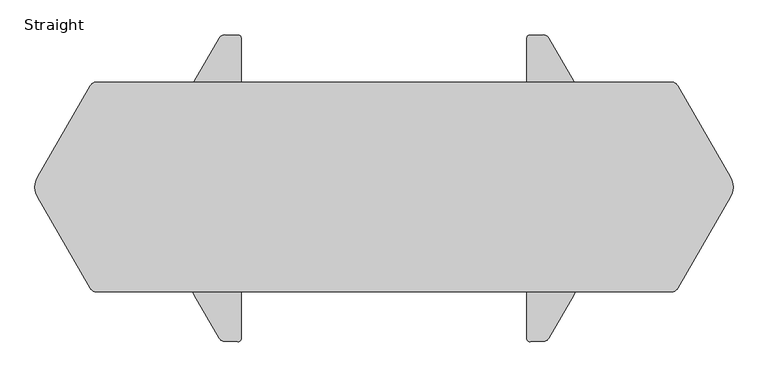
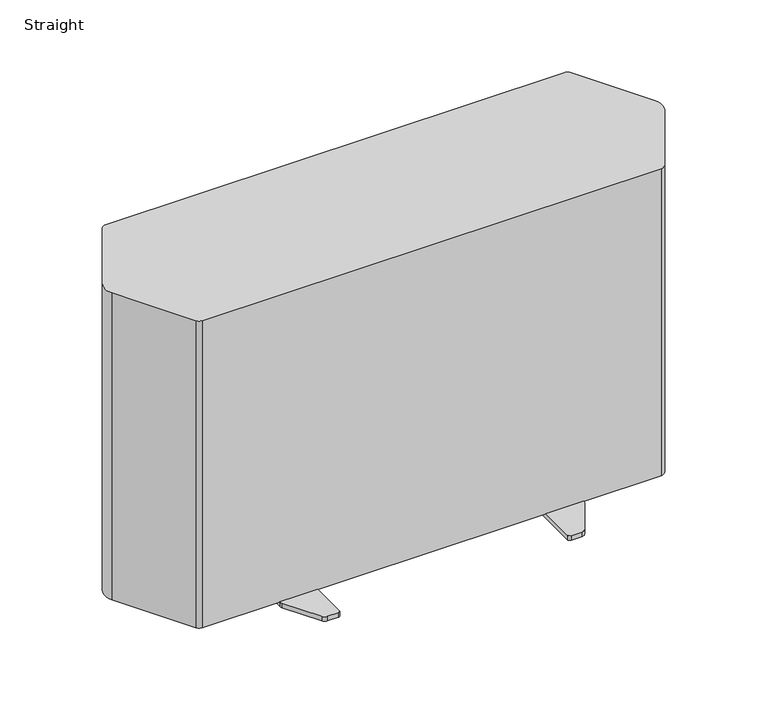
"""IFC4 building model written with IfcOpenShell, lengths in millimetres: furniture geometry, SmithSystem_AM_Seating_Outdoor_Flowform_MidHeightBenchDivider : Straight."""

from ifc_helpers import new_model, si_unit, point, frame, frame_2d, origin, origin_with_axes, place, context, project, spatial, polyline, circle_curve, trimmed, segment, composite_curve, outline, extrude, source, transform, mapped, element, save


def straight_cc77db5b(model_context):
    return source(origin(), model_context, "Body", "SweptSolid", [
        extrude(outline(composite_curve([segment(trimmed(circle_curve(frame_2d((-450.5197772, 139.7559948)), 12.7), [point((-463.2197772, 139.7559948))], [point((-437.8197772, 139.7559948))], False, "CARTESIAN"), True, "CONTINUOUS"), segment(trimmed(circle_curve(frame_2d((-450.5197772, 139.7559948)), 12.7), [point((-437.8197772, 139.7559948))], [point((-463.2197772, 139.7559948))], False, "CARTESIAN"), True, "CONTINUOUS")], self_intersect=False)), origin_with_axes(), (0.0, 0.0, 1.0), 9.5250216),
        extrude(outline(composite_curve([segment(trimmed(circle_curve(frame_2d((-450.1246969, -140.1371727)), 12.7), [point((-462.8246969, -140.1371727))], [point((-437.4246969, -140.1371727))], False, "CARTESIAN"), True, "CONTINUOUS"), segment(trimmed(circle_curve(frame_2d((-450.1246969, -140.1371727)), 12.7), [point((-437.4246969, -140.1371727))], [point((-462.8246969, -140.1371727))], False, "CARTESIAN"), True, "CONTINUOUS")], self_intersect=False)), origin_with_axes(), (0.0, 0.0, 1.0), 9.5250216),
        extrude(outline(composite_curve([segment(trimmed(circle_curve(frame_2d((450.5197772, 139.7559948)), 12.7), [point((463.2197772, 139.7559948))], [point((437.8197772, 139.7559948))], False, "CARTESIAN"), True, "CONTINUOUS"), segment(trimmed(circle_curve(frame_2d((450.5197772, 139.7559948)), 12.7), [point((437.8197772, 139.7559948))], [point((463.2197772, 139.7559948))], False, "CARTESIAN"), True, "CONTINUOUS")], self_intersect=False)), origin_with_axes(), (0.0, 0.0, 1.0), 9.5250216),
        extrude(outline(composite_curve([segment(trimmed(circle_curve(frame_2d((450.1246969, -140.1371727)), 12.7), [point((462.8246969, -140.1371727))], [point((437.4246969, -140.1371727))], False, "CARTESIAN"), True, "CONTINUOUS"), segment(trimmed(circle_curve(frame_2d((450.1246969, -140.1371727)), 12.7), [point((437.4246969, -140.1371727))], [point((462.8246969, -140.1371727))], False, "CARTESIAN"), True, "CONTINUOUS")], self_intersect=False)), origin_with_axes(), (0.0, 0.0, 1.0), 9.5250216),
        extrude(outline(composite_curve([segment(trimmed(circle_curve(frame_2d((-0.9672087, -0.1366942)), 12.7), [point((11.7327913, -0.1366942))], [point((-13.6672087, -0.1366942))], False, "CARTESIAN"), True, "CONTINUOUS"), segment(trimmed(circle_curve(frame_2d((-0.9672087, -0.1366942)), 12.7), [point((-13.6672087, -0.1366942))], [point((11.7327913, -0.1366942))], False, "CARTESIAN"), True, "CONTINUOUS")], self_intersect=False)), origin_with_axes(), (0.0, 0.0, 1.0), 9.5250216),
        extrude(outline(composite_curve([segment(trimmed(circle_curve(frame_2d((-234.4777737, 241.1011039)), 5.08), [point((-234.4671939, 246.1810929))], [point((-229.3977739, 241.0998169))], False, "CARTESIAN"), True, "CONTINUOUS"), segment(polyline([(-229.3977739, 241.0998169), (-229.5199359, -241.0998169)]), True, "CONTINUOUS"), segment(trimmed(circle_curve(frame_2d((-234.5999357, -241.09853)), 5.08), [point((-229.5199359, -241.0998169))], [point((-234.6401923, -246.1783705))], False, "CARTESIAN"), True, "CONTINUOUS"), segment(polyline([(-234.6401923, -246.1783705), (-255.8652103, -246.010167)]), True, "CONTINUOUS"), segment(trimmed(circle_curve(frame_2d((-255.7846971, -235.850486)), 10.16), [point((-255.8652103, -246.010167))], [point((-264.5791781, -240.9379907))], False, "CARTESIAN"), True, "CONTINUOUS"), segment(polyline([(-264.5791781, -240.9379907), (-304.7512617, -171.4947863)]), True, "CONTINUOUS"), segment(trimmed(circle_curve(frame_2d((-295.9567807, -166.4072816)), 10.16), [point((-304.7512617, -171.4947863))], [point((-306.1167803, -166.4046108))], False, "CARTESIAN"), True, "CONTINUOUS"), segment(polyline([(-306.1167803, -166.4046108), (-306.0292523, 166.5649192)]), True, "CONTINUOUS"), segment(trimmed(circle_curve(frame_2d((-295.8692526, 166.5622484)), 10.16), [point((-306.0292523, 166.5649192))], [point((-304.6745177, 171.6310655))], False, "CARTESIAN"), True, "CONTINUOUS"), segment(polyline([(-304.6745177, 171.6310655), (-264.6643776, 241.1344398)]), True, "CONTINUOUS"), segment(trimmed(circle_curve(frame_2d((-255.8591125, 236.0656227)), 10.16), [point((-264.6643776, 241.1344398))], [point((-255.8379528, 246.2256007))], False, "CARTESIAN"), True, "CONTINUOUS"), segment(polyline([(-255.8379528, 246.2256007), (-234.4671939, 246.1810929)]), True, "CONTINUOUS")], self_intersect=False)), origin_with_axes(), (0.0, 0.0, 1.0), 9.5250216),
        extrude(outline(composite_curve([segment(polyline([(234.4671939, 246.1810929), (255.8379528, 246.2256007)]), True, "CONTINUOUS"), segment(trimmed(circle_curve(frame_2d((255.8591125, 236.0656227)), 10.16), [point((255.8379528, 246.2256007))], [point((264.6643776, 241.1344398))], False, "CARTESIAN"), True, "CONTINUOUS"), segment(polyline([(264.6643776, 241.1344398), (304.6745177, 171.6310655)]), True, "CONTINUOUS"), segment(trimmed(circle_curve(frame_2d((295.8692526, 166.5622484)), 10.16), [point((304.6745177, 171.6310655))], [point((306.0292523, 166.5649192))], False, "CARTESIAN"), True, "CONTINUOUS"), segment(polyline([(306.0292523, 166.5649192), (306.1167803, -166.4046108)]), True, "CONTINUOUS"), segment(trimmed(circle_curve(frame_2d((295.9567807, -166.4072816)), 10.16), [point((306.1167803, -166.4046108))], [point((304.7512617, -171.4947863))], False, "CARTESIAN"), True, "CONTINUOUS"), segment(polyline([(304.7512617, -171.4947863), (264.5791781, -240.9379907)]), True, "CONTINUOUS"), segment(trimmed(circle_curve(frame_2d((255.7846971, -235.850486)), 10.16), [point((264.5791781, -240.9379907))], [point((255.8652103, -246.010167))], False, "CARTESIAN"), True, "CONTINUOUS"), segment(polyline([(255.8652103, -246.010167), (234.6401923, -246.1783705)]), True, "CONTINUOUS"), segment(trimmed(circle_curve(frame_2d((234.5999357, -241.09853)), 5.08), [point((234.6401923, -246.1783705))], [point((229.5199359, -241.0998169))], False, "CARTESIAN"), True, "CONTINUOUS"), segment(polyline([(229.5199359, -241.0998169), (229.3977739, 241.0998169)]), True, "CONTINUOUS"), segment(trimmed(circle_curve(frame_2d((234.4777737, 241.1011039)), 5.08), [point((229.3977739, 241.0998169))], [point((234.4671939, 246.1810929))], False, "CARTESIAN"), True, "CONTINUOUS")], self_intersect=False)), origin_with_axes(), (0.0, 0.0, 1.0), 9.5250216),
        extrude(outline(composite_curve([segment(trimmed(circle_curve(frame_2d((461.6820936, 159.0775673)), 11.43), [point((461.6820936, 170.5075673))], [point((471.580764, 164.7925673))], False, "CARTESIAN"), True, "CONTINUOUS"), segment(polyline([(471.580764, 164.7925673), (556.1798823, 18.2625959)]), True, "CONTINUOUS"), segment(trimmed(circle_curve(frame_2d((527.5837235, 1.7525959)), 33.02), [point((556.1798823, 18.2625959))], [point((556.1798823, -14.7574041))], False, "CARTESIAN"), True, "CONTINUOUS"), segment(polyline([(556.1798823, -14.7574041), (472.0229295, -160.5215222)]), True, "CONTINUOUS"), segment(trimmed(circle_curve(frame_2d((462.1242592, -154.8065222)), 11.43), [point((472.0229295, -160.5215222))], [point((462.1242592, -166.2365222))], False, "CARTESIAN"), True, "CONTINUOUS"), segment(polyline([(462.1242592, -166.2365222), (-462.1242592, -166.2365222)]), True, "CONTINUOUS"), segment(trimmed(circle_curve(frame_2d((-462.1242592, -154.8065222)), 11.43), [point((-462.1242592, -166.2365222))], [point((-472.0229295, -160.5215222))], False, "CARTESIAN"), True, "CONTINUOUS"), segment(polyline([(-472.0229295, -160.5215222), (-556.1798823, -14.7574041)]), True, "CONTINUOUS"), segment(trimmed(circle_curve(frame_2d((-527.5837235, 1.7525959)), 33.02), [point((-556.1798823, -14.7574041))], [point((-556.1798823, 18.2625959))], False, "CARTESIAN"), True, "CONTINUOUS"), segment(polyline([(-556.1798823, 18.2625959), (-471.580764, 164.7925673)]), True, "CONTINUOUS"), segment(trimmed(circle_curve(frame_2d((-461.6820936, 159.0775673)), 11.43), [point((-471.580764, 164.7925673))], [point((-461.6820936, 170.5075673))], False, "CARTESIAN"), True, "CONTINUOUS"), segment(polyline([(-461.6820936, 170.5075673), (461.6820936, 170.5075673)]), True, "CONTINUOUS")], self_intersect=False)), frame((0.0, 0.0, 9.5251851), z_axis=(0.0, 0.0, 1.0), x_axis=(1.0, 0.0, 0.0)), (0.0, 0.0, 1.0), 653.1719261),
    ])


if __name__ == "__main__":
    model = new_model("IFC4")
    model_context = context("Model", 3, world=origin())
    ifc_project = project(units=[si_unit("LENGTHUNIT", "METRE", prefix="MILLI")], contexts=[model_context])
    site = spatial("IfcSite", under=ifc_project)
    building = spatial("IfcBuilding", under=site)
    placement = place(None, origin())
    straight_shape = straight_cc77db5b(model_context)
    element("IfcFurniture", 1, ObjectType="SmithSystem_AM_Seating_Outdoor_Flowform_MidHeightBenchDivider : Straight", at=placement, inside=building, context=model_context, shape_type="MappedRepresentation", body=[
        mapped(straight_shape, transform((0.0, 0.0, 0.0), x_axis=(1.0, 0.0, 0.0), y_axis=(0.0, 1.0, 0.0), z_axis=(0.0, 0.0, 1.0))),
    ])
    save(model, "model.ifc")
